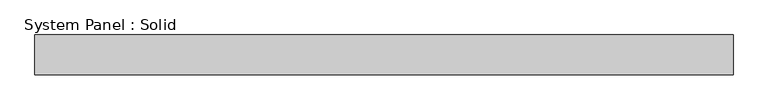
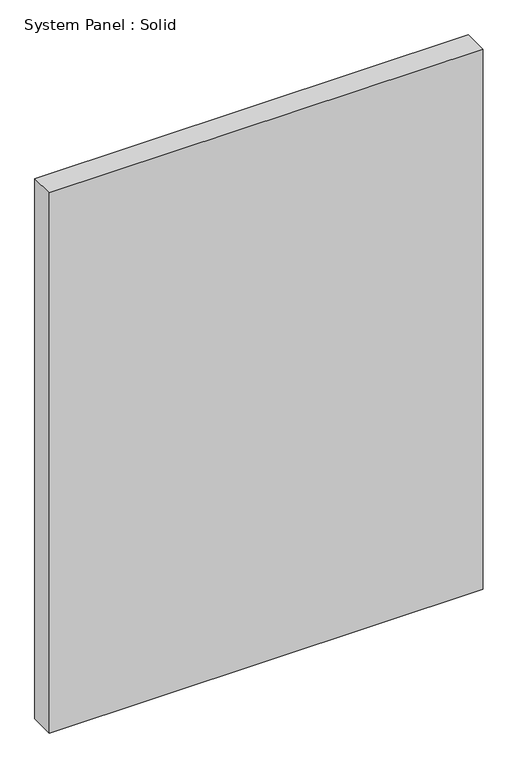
"""IFC4 building model written with IfcOpenShell, lengths in millimetres: plate geometry, System Panel : Solid."""

import ifcopenshell
import ifcopenshell.guid

model = None  # the IFC model being written
_history = None  # IfcOwnerHistory: only IFC2X3 demands one
_inside = {}  # id of a spatial element -> (the spatial element, [elements in it])
_under = {}  # id of a project, library or spatial element -> (it, [spatial elements below it])
_declared = {}  # id of a project -> (the project, [libraries it declares])
_typed = {}  # id of a type object -> (the type object, [elements of that type])
_made_of = {}  # id of a material, layer set ... -> (it, [elements and type objects made of it])


def new_model(schema):
    """Start an empty IFC model of exactly this schema.

    Asked for "IFC4X3", IfcOpenShell would pick the latest addendum, in which some entities
    have other attributes; the version numbers below select the first issue.
    IFC2X3 requires an IfcOwnerHistory on every rooted entity: one is made here for all.
    """
    global model, _history
    if schema == "IFC4X3":
        model = ifcopenshell.file(schema_version=(4, 3, 0, 0))
    else:
        model = ifcopenshell.file(schema=schema)
    _inside.clear()
    _under.clear()
    _declared.clear()
    _typed.clear()
    _made_of.clear()
    _history = None
    if model.schema == "IFC2X3":
        org = make("IfcOrganization", Name="unknown")
        user = make(
            "IfcPersonAndOrganization",
            ThePerson=make("IfcPerson", FamilyName="unknown"),
            TheOrganization=org,
        )
        app = make(
            "IfcApplication",
            ApplicationDeveloper=org,
            Version="unknown",
            ApplicationFullName="unknown",
            ApplicationIdentifier="unknown",
        )
        _history = make(
            "IfcOwnerHistory",
            OwningUser=user,
            OwningApplication=app,
            ChangeAction="ADDED",
            CreationDate=0,
        )
    return model


def make(cls, **values):
    """One entity of the class cls with the attributes given. An attribute that is None is left unset."""
    return model.create_entity(
        cls, **{name: value for name, value in values.items() if value is not None}
    )


def rooted(cls, **values):
    """An entity with a GlobalId (a new one), such as an element, a storey or a relation."""
    return make(cls, GlobalId=ifcopenshell.guid.new(), OwnerHistory=_history, **values)


def si_unit(unit_type, name, prefix=None):
    """IfcSIUnit, for example si_unit("LENGTHUNIT", "METRE", prefix="MILLI")."""
    return make("IfcSIUnit", UnitType=unit_type, Prefix=prefix, Name=name)


def assignment(units):
    """IfcUnitAssignment: the units of a project."""
    return None if units is None else make("IfcUnitAssignment", Units=units)


def point(xyz):
    """IfcCartesianPoint."""
    return None if xyz is None else make("IfcCartesianPoint", Coordinates=xyz)


def direction(xyz):
    """IfcDirection."""
    return None if xyz is None else make("IfcDirection", DirectionRatios=xyz)


def frame(location, z_axis=None, x_axis=None):
    """IfcAxis2Placement3D, a coordinate frame: its origin and axes. An axis left out is left unset."""
    return make(
        "IfcAxis2Placement3D",
        Location=point(location),
        Axis=direction(z_axis),
        RefDirection=direction(x_axis),
    )


def origin():
    """The frame at (0, 0, 0) with its axes left unset."""
    return frame((0.0, 0.0, 0.0))


def origin_with_axes():
    """The frame at (0, 0, 0) with the z axis (0, 0, 1) and the x axis (1, 0, 0) written out."""
    return frame((0.0, 0.0, 0.0), z_axis=(0.0, 0.0, 1.0), x_axis=(1.0, 0.0, 0.0))


def place(relative_to, where):
    """IfcLocalPlacement: puts the frame where relative to a parent placement (None: the world)."""
    return make(
        "IfcLocalPlacement", PlacementRelTo=relative_to, RelativePlacement=where
    )


def context(
    kind, dimensions, precision=None, world=None, true_north=None, identifier=None
):
    """IfcGeometricRepresentationContext, for example the 3D "Model" context."""
    return make(
        "IfcGeometricRepresentationContext",
        ContextIdentifier=identifier,
        ContextType=kind,
        CoordinateSpaceDimension=dimensions,
        Precision=precision,
        WorldCoordinateSystem=world,
        TrueNorth=true_north,
    )


def project(units=None, contexts=None):
    """IfcProject with its units and contexts."""
    return rooted(
        "IfcProject",
        Name="project",
        RepresentationContexts=contexts,
        UnitsInContext=assignment(units),
    )


def spatial(cls, under=None, at=None, **own):
    """A site, building, storey or space (cls), placed at a placement, below another one or the project."""
    s = rooted(cls, ObjectPlacement=at, **own)
    if under is not None:
        _under.setdefault(under.id(), (under, []))[1].append(s)
    return s


def polyline(points):
    """IfcPolyline through the points."""
    return make("IfcPolyline", Points=[point(p) for p in points])


def outline(outer, holes=None, kind="AREA"):
    """IfcArbitraryClosedProfileDef: a profile drawn as a closed curve; with holes, ...WithVoids."""
    if holes is None:
        return make("IfcArbitraryClosedProfileDef", ProfileType=kind, OuterCurve=outer)
    return make(
        "IfcArbitraryProfileDefWithVoids",
        ProfileType=kind,
        OuterCurve=outer,
        InnerCurves=holes,
    )


def extrude(swept, where, along, depth):
    """IfcExtrudedAreaSolid: the profile swept, set in the frame where, extruded along a direction by depth."""
    return make(
        "IfcExtrudedAreaSolid",
        SweptArea=swept,
        Position=where,
        ExtrudedDirection=direction(along),
        Depth=depth,
    )


def shape(context_of_items, identifier, shape_type, items):
    """IfcShapeRepresentation: the items that make up one representation, for example the "Body"."""
    return make(
        "IfcShapeRepresentation",
        ContextOfItems=context_of_items,
        RepresentationIdentifier=identifier,
        RepresentationType=shape_type,
        Items=items,
    )


def source(mapping_origin, context_of_items, identifier, shape_type, items):
    """IfcRepresentationMap: a shape defined once, which mapped items show again and again."""
    return make(
        "IfcRepresentationMap",
        MappingOrigin=mapping_origin,
        MappedRepresentation=shape(context_of_items, identifier, shape_type, items),
    )


def transform(
    local_origin,
    x_axis=None,
    y_axis=None,
    z_axis=None,
    scale=None,
    scale2=None,
    scale3=None,
    uniform=True,
):
    """IfcCartesianTransformationOperator3D, or its non-uniform kind. x_axis, y_axis, z_axis: its Axis1, 2, 3."""
    if uniform:
        return make(
            "IfcCartesianTransformationOperator3D",
            Axis1=direction(x_axis),
            Axis2=direction(y_axis),
            LocalOrigin=point(local_origin),
            Scale=scale,
            Axis3=direction(z_axis),
        )
    return make(
        "IfcCartesianTransformationOperator3DnonUniform",
        Axis1=direction(x_axis),
        Axis2=direction(y_axis),
        LocalOrigin=point(local_origin),
        Scale=scale,
        Axis3=direction(z_axis),
        Scale2=scale2,
        Scale3=scale3,
    )


def mapped(mapping_source, mapping_target):
    """IfcMappedItem: shows the shape of a source again, moved by a transform."""
    return make(
        "IfcMappedItem", MappingSource=mapping_source, MappingTarget=mapping_target
    )


def made_of(thing, what):
    """Note that an element or type object is made of a material, layer set ...; save() writes the relation."""
    if what is not None:
        _made_of.setdefault(what.id(), (what, []))[1].append(thing)
    return thing


def element(
    cls,
    number,
    at=None,
    inside=None,
    cuts=None,
    type_object=None,
    material=None,
    context=None,
    identifier="Body",
    shape_type=None,
    held_by="IfcProductDefinitionShape",
    body=None,
    shapes=None,
    **own,
):
    """One element of the class cls, such as IfcWall. Its Tag is "e" and its number.

    at: its placement. inside: the storey or other place that contains it. cuts: it is an
    opening in that element (IfcRelVoidsElement). A single representation is given by context,
    identifier, shape_type and body (its items); several are given by shapes. held_by: the class
    of the entity that holds the representations. save() writes the other relations.
    """
    e = rooted(cls, Tag="e%d" % number, ObjectPlacement=at, **own)
    if body is not None:
        shapes = [shape(context, identifier, shape_type, body)]
    if shapes is not None:
        e.Representation = make(held_by, Representations=shapes)
    if inside is not None:
        _inside.setdefault(inside.id(), (inside, []))[1].append(e)
    if cuts is not None:
        rooted(
            "IfcRelVoidsElement", RelatingBuildingElement=cuts, RelatedOpeningElement=e
        )
    if type_object is not None:
        _typed.setdefault(type_object.id(), (type_object, []))[1].append(e)
    return made_of(e, material)


def aggregate(whole, parts):
    """IfcRelAggregates: a whole, such as a stair, and the parts it consists of."""
    return rooted("IfcRelAggregates", RelatingObject=whole, RelatedObjects=parts)


def save(model, path):
    """Write the relations noted so far, then the file.

    IfcRelAggregates (storeys below a building ...), IfcRelContainedInSpatialStructure (elements
    in a storey), IfcRelDefinesByType, IfcRelAssociatesMaterial and IfcRelDeclares: one each for
    every whole, place, type object, material and project.
    """
    for whole, parts in _under.values():
        aggregate(whole, parts)
    for where, things in _inside.values():
        rooted(
            "IfcRelContainedInSpatialStructure",
            RelatedElements=things,
            RelatingStructure=where,
        )
    for kind, things in _typed.values():
        rooted("IfcRelDefinesByType", RelatedObjects=things, RelatingType=kind)
    for what, things in _made_of.values():
        rooted("IfcRelAssociatesMaterial", RelatedObjects=things, RelatingMaterial=what)
    for by, libraries in _declared.values():
        rooted("IfcRelDeclares", RelatingContext=by, RelatedDefinitions=libraries)
    model.write(path)


def system_panel_solid_6e0f4c8d(model_context):
    return source(origin(), model_context, "Body", "SweptSolid", [
        extrude(outline(polyline([(557.2125, -19.05), (-557.2125, -19.05), (-557.2125, 44.45), (557.2125, 44.45), (557.2125, -19.05)])), origin_with_axes(), (0.0, 0.0, 1.0), 1466.85),
    ])


if __name__ == "__main__":
    model = new_model("IFC4")
    model_context = context("Model", 3, world=origin())
    ifc_project = project(units=[si_unit("LENGTHUNIT", "METRE", prefix="MILLI")], contexts=[model_context])
    site = spatial("IfcSite", under=ifc_project)
    building = spatial("IfcBuilding", under=site)
    placement = place(None, origin())
    system_panel_solid_shape = system_panel_solid_6e0f4c8d(model_context)
    element("IfcPlate", 1, ObjectType="System Panel : Solid", at=placement, inside=building, context=model_context, shape_type="MappedRepresentation", body=[
        mapped(system_panel_solid_shape, transform((0.0, 0.0, 0.0), x_axis=(1.0, 0.0, 0.0), y_axis=(0.0, 1.0, 0.0), z_axis=(0.0, 0.0, 1.0))),
    ])
    save(model, "model.ifc")
